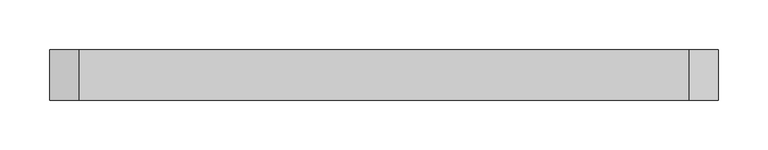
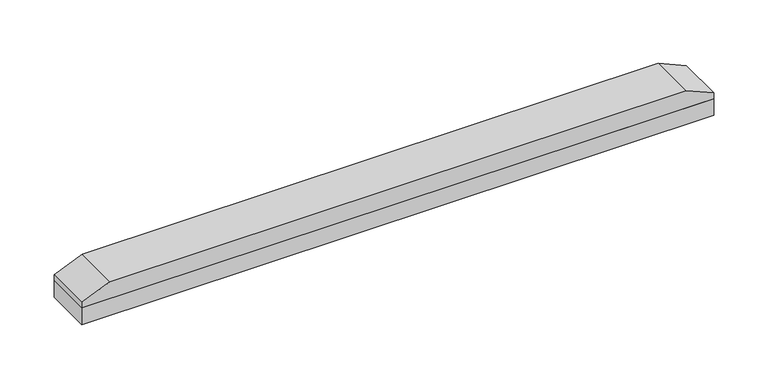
"""IFC4 building model written with IfcOpenShell, lengths in millimetres: proxy geometry, Spinneybeck_ARO Plank 8 : D - 2’-2 1/2” x 2” x 3/4”."""

from ifc_helpers import new_model, si_unit, frame, origin, origin_with_axes, place, context, project, spatial, polyline, outline, extrude, source, transform, mapped, element, save


def specialty_equipment_ba4468b7(model_context):
    return source(origin(), model_context, "Body", "SweptSolid", [
        extrude(outline(polyline([(19.05, -336.5), (19.05, 336.5), (25.4, 336.5), (38.1, 306.8666667), (38.1, -306.8666667), (25.4, -336.5), (19.05, -336.5)])), frame((0.0, -25.4, 0.0), z_axis=(0.0, 1.0, 0.0), x_axis=(0.0, 0.0, 1.0)), (0.0, 0.0, 1.0), 50.8),
        extrude(outline(polyline([(-336.5, -25.4), (-336.5, 25.4), (336.5, 25.4), (336.5, -25.4), (-336.5, -25.4)])), origin_with_axes(), (0.0, 0.0, 1.0), 19.05),
    ])


if __name__ == "__main__":
    model = new_model("IFC4")
    model_context = context("Model", 3, world=origin())
    ifc_project = project(units=[si_unit("LENGTHUNIT", "METRE", prefix="MILLI")], contexts=[model_context])
    site = spatial("IfcSite", under=ifc_project)
    building = spatial("IfcBuilding", under=site)
    placement = place(None, origin())
    specialty_equipment_shape = specialty_equipment_ba4468b7(model_context)
    element("IfcBuildingElementProxy", 1, Name="Spinneybeck_ARO Plank 8 : D - 2’-2 1/2” x 2” x 3/4”", ObjectType="Spinneybeck_ARO Plank 8 : D - 2’-2 1/2” x 2” x 3/4”", at=placement, inside=building, context=model_context, shape_type="MappedRepresentation", body=[
        mapped(specialty_equipment_shape, transform((0.0, 0.0, 0.0), x_axis=(1.0, 0.0, 0.0), y_axis=(0.0, 1.0, 0.0), z_axis=(0.0, 0.0, 1.0))),
    ])
    save(model, "model.ifc")
